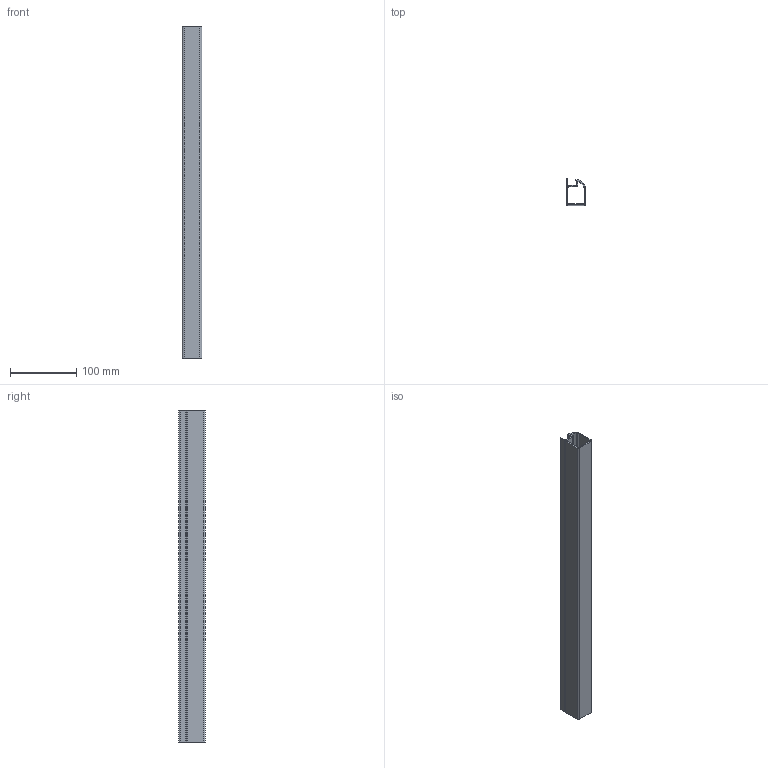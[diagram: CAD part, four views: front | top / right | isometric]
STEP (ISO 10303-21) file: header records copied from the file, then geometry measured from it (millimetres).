
FILE_DESCRIPTION (( 'STEP AP214' ), '1' );
FILE_NAME ('A40706.step', '2024-12-03T16:11:33', ( '' ), ( '' ), 'SwSTEP 2.0', 'SolidWorks 2023', '' );
FILE_SCHEMA (( 'AUTOMOTIVE_DESIGN' ));
Length unit declared in the file: millimetre
Products named in the file (1): A40706
Bounding box: 30 x 39.93 x 500 mm (x, y, z)
Volume: 132626.4 mm3; surface area: 130893 mm2
Topology: 1 solids, 1 shells, 36 faces, 102 edges, 68 vertices
Faces by surface type: plane 19, cylinder 17
Entity records: 1207 total; most frequent: DIRECTION 210, CARTESIAN_POINT 207, ORIENTED_EDGE 204, EDGE_CURVE 102, AXIS2_PLACEMENT_3D 71, VERTEX_POINT 68, VECTOR 68, LINE 68
